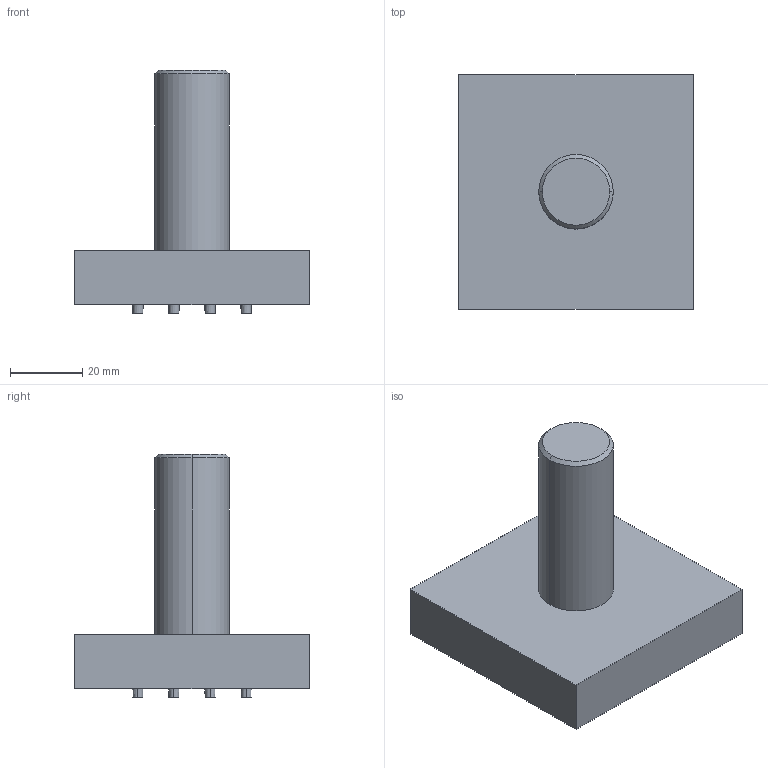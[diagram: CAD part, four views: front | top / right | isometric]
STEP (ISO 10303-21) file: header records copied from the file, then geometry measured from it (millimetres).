
FILE_DESCRIPTION (( 'STEP AP203' ), '1' );
FILE_NAME ('BJM4.STEP', '2025-02-27T15:09:03', ( '' ), ( '' ), 'SwSTEP 2.0', 'SolidWorks 2024', '' );
FILE_SCHEMA (( 'CONFIG_CONTROL_DESIGN' ));
Length unit declared in the file: millimetre
Products named in the file (1): BJM4
Bounding box: 65 x 65 x 67.5 mm (x, y, z)
Volume: 80158.5 mm3; surface area: 16440.7 mm2
Topology: 17 solids, 17 shells, 155 faces, 310 edges, 206 vertices
Faces by surface type: cylinder 66, plane 55, cone 34
Entity records: 4235 total; most frequent: DIRECTION 820, CARTESIAN_POINT 672, ORIENTED_EDGE 620, AXIS2_PLACEMENT_3D 354, EDGE_CURVE 310, VERTEX_POINT 206, EDGE_LOOP 204, CIRCLE 198
